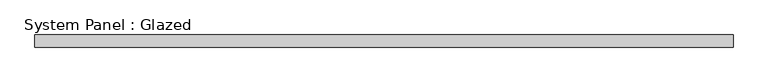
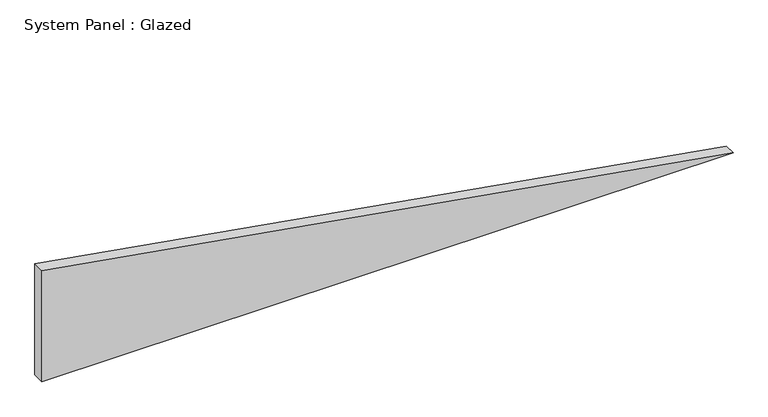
"""IFC4 building model written with IfcOpenShell, lengths in millimetres: plate geometry, System Panel : Glazed."""

import ifcopenshell
import ifcopenshell.guid

model = None  # the IFC model being written
_history = None  # IfcOwnerHistory: only IFC2X3 demands one
_inside = {}  # id of a spatial element -> (the spatial element, [elements in it])
_under = {}  # id of a project, library or spatial element -> (it, [spatial elements below it])
_declared = {}  # id of a project -> (the project, [libraries it declares])
_typed = {}  # id of a type object -> (the type object, [elements of that type])
_made_of = {}  # id of a material, layer set ... -> (it, [elements and type objects made of it])


def new_model(schema):
    """Start an empty IFC model of exactly this schema.

    Asked for "IFC4X3", IfcOpenShell would pick the latest addendum, in which some entities
    have other attributes; the version numbers below select the first issue.
    IFC2X3 requires an IfcOwnerHistory on every rooted entity: one is made here for all.
    """
    global model, _history
    if schema == "IFC4X3":
        model = ifcopenshell.file(schema_version=(4, 3, 0, 0))
    else:
        model = ifcopenshell.file(schema=schema)
    _inside.clear()
    _under.clear()
    _declared.clear()
    _typed.clear()
    _made_of.clear()
    _history = None
    if model.schema == "IFC2X3":
        org = make("IfcOrganization", Name="unknown")
        user = make(
            "IfcPersonAndOrganization",
            ThePerson=make("IfcPerson", FamilyName="unknown"),
            TheOrganization=org,
        )
        app = make(
            "IfcApplication",
            ApplicationDeveloper=org,
            Version="unknown",
            ApplicationFullName="unknown",
            ApplicationIdentifier="unknown",
        )
        _history = make(
            "IfcOwnerHistory",
            OwningUser=user,
            OwningApplication=app,
            ChangeAction="ADDED",
            CreationDate=0,
        )
    return model


def make(cls, **values):
    """One entity of the class cls with the attributes given. An attribute that is None is left unset."""
    return model.create_entity(
        cls, **{name: value for name, value in values.items() if value is not None}
    )


def rooted(cls, **values):
    """An entity with a GlobalId (a new one), such as an element, a storey or a relation."""
    return make(cls, GlobalId=ifcopenshell.guid.new(), OwnerHistory=_history, **values)


def si_unit(unit_type, name, prefix=None):
    """IfcSIUnit, for example si_unit("LENGTHUNIT", "METRE", prefix="MILLI")."""
    return make("IfcSIUnit", UnitType=unit_type, Prefix=prefix, Name=name)


def assignment(units):
    """IfcUnitAssignment: the units of a project."""
    return None if units is None else make("IfcUnitAssignment", Units=units)


def point(xyz):
    """IfcCartesianPoint."""
    return None if xyz is None else make("IfcCartesianPoint", Coordinates=xyz)


def direction(xyz):
    """IfcDirection."""
    return None if xyz is None else make("IfcDirection", DirectionRatios=xyz)


def frame(location, z_axis=None, x_axis=None):
    """IfcAxis2Placement3D, a coordinate frame: its origin and axes. An axis left out is left unset."""
    return make(
        "IfcAxis2Placement3D",
        Location=point(location),
        Axis=direction(z_axis),
        RefDirection=direction(x_axis),
    )


def origin():
    """The frame at (0, 0, 0) with its axes left unset."""
    return frame((0.0, 0.0, 0.0))


def place(relative_to, where):
    """IfcLocalPlacement: puts the frame where relative to a parent placement (None: the world)."""
    return make(
        "IfcLocalPlacement", PlacementRelTo=relative_to, RelativePlacement=where
    )


def context(
    kind, dimensions, precision=None, world=None, true_north=None, identifier=None
):
    """IfcGeometricRepresentationContext, for example the 3D "Model" context."""
    return make(
        "IfcGeometricRepresentationContext",
        ContextIdentifier=identifier,
        ContextType=kind,
        CoordinateSpaceDimension=dimensions,
        Precision=precision,
        WorldCoordinateSystem=world,
        TrueNorth=true_north,
    )


def project(units=None, contexts=None):
    """IfcProject with its units and contexts."""
    return rooted(
        "IfcProject",
        Name="project",
        RepresentationContexts=contexts,
        UnitsInContext=assignment(units),
    )


def spatial(cls, under=None, at=None, **own):
    """A site, building, storey or space (cls), placed at a placement, below another one or the project."""
    s = rooted(cls, ObjectPlacement=at, **own)
    if under is not None:
        _under.setdefault(under.id(), (under, []))[1].append(s)
    return s


def polyline(points):
    """IfcPolyline through the points."""
    return make("IfcPolyline", Points=[point(p) for p in points])


def outline(outer, holes=None, kind="AREA"):
    """IfcArbitraryClosedProfileDef: a profile drawn as a closed curve; with holes, ...WithVoids."""
    if holes is None:
        return make("IfcArbitraryClosedProfileDef", ProfileType=kind, OuterCurve=outer)
    return make(
        "IfcArbitraryProfileDefWithVoids",
        ProfileType=kind,
        OuterCurve=outer,
        InnerCurves=holes,
    )


def extrude(swept, where, along, depth):
    """IfcExtrudedAreaSolid: the profile swept, set in the frame where, extruded along a direction by depth."""
    return make(
        "IfcExtrudedAreaSolid",
        SweptArea=swept,
        Position=where,
        ExtrudedDirection=direction(along),
        Depth=depth,
    )


def shape(context_of_items, identifier, shape_type, items):
    """IfcShapeRepresentation: the items that make up one representation, for example the "Body"."""
    return make(
        "IfcShapeRepresentation",
        ContextOfItems=context_of_items,
        RepresentationIdentifier=identifier,
        RepresentationType=shape_type,
        Items=items,
    )


def source(mapping_origin, context_of_items, identifier, shape_type, items):
    """IfcRepresentationMap: a shape defined once, which mapped items show again and again."""
    return make(
        "IfcRepresentationMap",
        MappingOrigin=mapping_origin,
        MappedRepresentation=shape(context_of_items, identifier, shape_type, items),
    )


def transform(
    local_origin,
    x_axis=None,
    y_axis=None,
    z_axis=None,
    scale=None,
    scale2=None,
    scale3=None,
    uniform=True,
):
    """IfcCartesianTransformationOperator3D, or its non-uniform kind. x_axis, y_axis, z_axis: its Axis1, 2, 3."""
    if uniform:
        return make(
            "IfcCartesianTransformationOperator3D",
            Axis1=direction(x_axis),
            Axis2=direction(y_axis),
            LocalOrigin=point(local_origin),
            Scale=scale,
            Axis3=direction(z_axis),
        )
    return make(
        "IfcCartesianTransformationOperator3DnonUniform",
        Axis1=direction(x_axis),
        Axis2=direction(y_axis),
        LocalOrigin=point(local_origin),
        Scale=scale,
        Axis3=direction(z_axis),
        Scale2=scale2,
        Scale3=scale3,
    )


def mapped(mapping_source, mapping_target):
    """IfcMappedItem: shows the shape of a source again, moved by a transform."""
    return make(
        "IfcMappedItem", MappingSource=mapping_source, MappingTarget=mapping_target
    )


def made_of(thing, what):
    """Note that an element or type object is made of a material, layer set ...; save() writes the relation."""
    if what is not None:
        _made_of.setdefault(what.id(), (what, []))[1].append(thing)
    return thing


def element(
    cls,
    number,
    at=None,
    inside=None,
    cuts=None,
    type_object=None,
    material=None,
    context=None,
    identifier="Body",
    shape_type=None,
    held_by="IfcProductDefinitionShape",
    body=None,
    shapes=None,
    **own,
):
    """One element of the class cls, such as IfcWall. Its Tag is "e" and its number.

    at: its placement. inside: the storey or other place that contains it. cuts: it is an
    opening in that element (IfcRelVoidsElement). A single representation is given by context,
    identifier, shape_type and body (its items); several are given by shapes. held_by: the class
    of the entity that holds the representations. save() writes the other relations.
    """
    e = rooted(cls, Tag="e%d" % number, ObjectPlacement=at, **own)
    if body is not None:
        shapes = [shape(context, identifier, shape_type, body)]
    if shapes is not None:
        e.Representation = make(held_by, Representations=shapes)
    if inside is not None:
        _inside.setdefault(inside.id(), (inside, []))[1].append(e)
    if cuts is not None:
        rooted(
            "IfcRelVoidsElement", RelatingBuildingElement=cuts, RelatedOpeningElement=e
        )
    if type_object is not None:
        _typed.setdefault(type_object.id(), (type_object, []))[1].append(e)
    return made_of(e, material)


def aggregate(whole, parts):
    """IfcRelAggregates: a whole, such as a stair, and the parts it consists of."""
    return rooted("IfcRelAggregates", RelatingObject=whole, RelatedObjects=parts)


def save(model, path):
    """Write the relations noted so far, then the file.

    IfcRelAggregates (storeys below a building ...), IfcRelContainedInSpatialStructure (elements
    in a storey), IfcRelDefinesByType, IfcRelAssociatesMaterial and IfcRelDeclares: one each for
    every whole, place, type object, material and project.
    """
    for whole, parts in _under.values():
        aggregate(whole, parts)
    for where, things in _inside.values():
        rooted(
            "IfcRelContainedInSpatialStructure",
            RelatedElements=things,
            RelatingStructure=where,
        )
    for kind, things in _typed.values():
        rooted("IfcRelDefinesByType", RelatedObjects=things, RelatingType=kind)
    for what, things in _made_of.values():
        rooted("IfcRelAssociatesMaterial", RelatedObjects=things, RelatingMaterial=what)
    for by, libraries in _declared.values():
        rooted("IfcRelDeclares", RelatingContext=by, RelatedDefinitions=libraries)
    model.write(path)


def system_panel_glazed_182b1a7b(model_context):
    return source(origin(), model_context, "Body", "SweptSolid", [
        extrude(outline(polyline([(0.0, -732.3805329), (0.0, 732.3805329), (248.9286989, -732.3805329), (0.0, -732.3805329)])), frame((0.0, 19.05, 0.0), z_axis=(0.0, 1.0, 0.0), x_axis=(0.0, 0.0, 1.0)), (0.0, 0.0, 1.0), 25.4),
    ])


if __name__ == "__main__":
    model = new_model("IFC4")
    model_context = context("Model", 3, world=origin())
    ifc_project = project(units=[si_unit("LENGTHUNIT", "METRE", prefix="MILLI")], contexts=[model_context])
    site = spatial("IfcSite", under=ifc_project)
    building = spatial("IfcBuilding", under=site)
    placement = place(None, origin())
    system_panel_glazed_shape = system_panel_glazed_182b1a7b(model_context)
    element("IfcPlate", 1, ObjectType="System Panel : Glazed", at=placement, inside=building, context=model_context, shape_type="MappedRepresentation", body=[
        mapped(system_panel_glazed_shape, transform((0.0, 0.0, 0.0), x_axis=(1.0, 0.0, 0.0), y_axis=(0.0, 1.0, 0.0), z_axis=(0.0, 0.0, 1.0))),
    ])
    save(model, "model.ifc")
